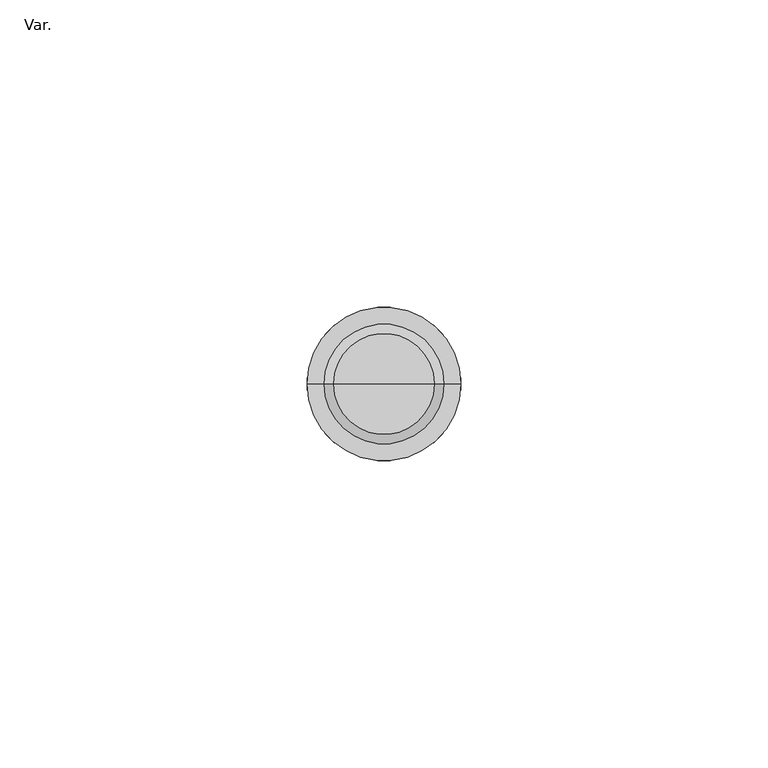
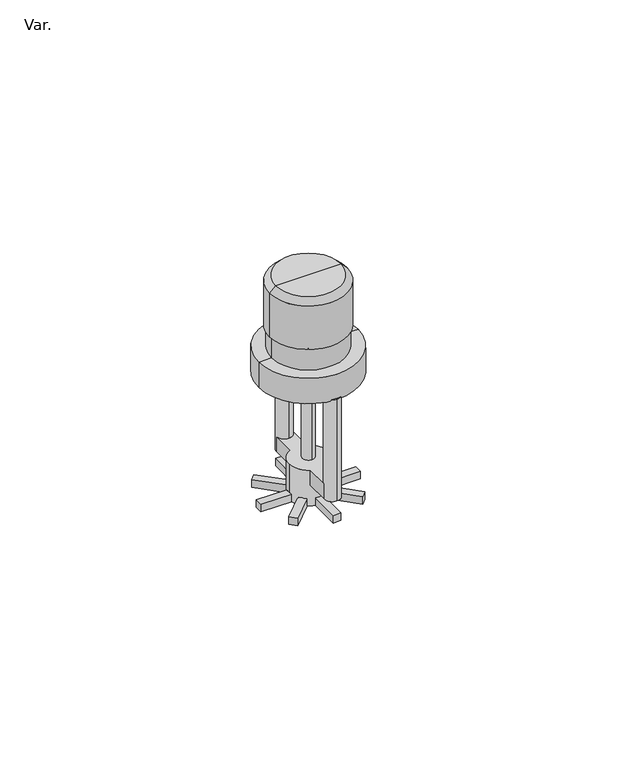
"""IFC4 building model written with IfcOpenShell, lengths in millimetres: pipe fitting geometry, Rociadores_ContraincendiosRociadorVertical : Var.."""

from ifc_helpers import new_model, si_unit, point, frame, origin, origin_with_axes, origin_2d, place, context, project, spatial, polyline, circle_curve, trimmed, segment, composite_curve, outline, extrude, source, transform, mapped, element, save
from ifc_brep_helpers import plane_surface, cylinder_surface, revolved_surface, advanced_brep


def var_fcf59cf1(model_context):
    return source(origin(), model_context, "Body", "SolidModel", [
        advanced_brep(
        [(0.0, -12.4454107, -52.5), (-2.0, -10.4454107, -52.5), (-2.0, -4.385476, -52.5), (2.0, -4.385476, -52.5), (2.0, -10.4454107, -52.5), (-2.0, 10.4454107, -52.5), (0.0, 12.4454107, -52.5), (2.0, 10.4454107, -52.5), (2.0, 4.385476, -52.5), (-2.0, 4.385476, -52.5), (0.0, -12.4454107, -25.5), (0.0, -8.4454107, -25.5), (0.0, 8.4454107, -25.5), (0.0, 12.4454107, -25.5), (0.0, -8.4454107, -48.5), (-2.0, -10.4454107, -48.5), (2.0, -10.4454107, -48.5), (-2.0, 10.4454107, -48.5), (0.0, 8.4454107, -48.5), (2.0, 10.4454107, -48.5), (2.0, -4.385476, -48.5), (4.82, 0.0, -48.5), (2.0, 4.385476, -48.5), (-2.0, 4.385476, -48.5), (-4.82, 0.0, -48.5), (-2.0, -4.385476, -48.5), (1.0, -12.5, -58.0), (-1.0, -12.5, -58.0), (-1.0, -4.7151246, -58.0), (-2.6269898, -4.0412034, -58.0), (-8.131728, -9.5459415, -58.0), (-9.5459415, -8.131728, -58.0), (-4.0412034, -2.6269898, -58.0), (-4.7151246, -1.0, -58.0), (-12.5, -1.0, -58.0), (-12.5, 1.0, -58.0), (-4.7151246, 1.0, -58.0), (-4.0412034, 2.6269898, -58.0), (-9.5459415, 8.131728, -58.0), (-8.131728, 9.5459415, -58.0), (-2.6269898, 4.0412034, -58.0), (-1.0, 4.7151246, -58.0), (-1.0, 12.5, -58.0), (1.0, 12.5, -58.0), (1.0, 4.7151246, -58.0), (2.6269898, 4.0412034, -58.0), (8.131728, 9.5459415, -58.0), (9.5459415, 8.131728, -58.0), (4.0412034, 2.6269898, -58.0), (4.7151246, 1.0, -58.0), (12.5, 1.0, -58.0), (12.5, -1.0, -58.0), (4.7151246, -1.0, -58.0), (4.0412034, -2.6269898, -58.0), (9.5459415, -8.131728, -58.0), (8.131728, -9.5459415, -58.0), (2.6269898, -4.0412034, -58.0), (1.0, -4.7151246, -58.0), (4.82, 0.0, -56.0), (4.7151246, 1.0, -56.0), (4.0412034, 2.6269898, -56.0), (2.6269898, 4.0412034, -56.0), (1.0, 4.7151246, -56.0), (-1.0, 4.7151246, -56.0), (-2.6269898, 4.0412034, -56.0), (-4.0412034, 2.6269898, -56.0), (-4.7151246, 1.0, -56.0), (-4.82, 0.0, -56.0), (-4.7151246, -1.0, -56.0), (-4.0412034, -2.6269898, -56.0), (-2.6269898, -4.0412034, -56.0), (-1.0, -4.7151246, -56.0), (1.0, -4.7151246, -56.0), (2.6269898, -4.0412034, -56.0), (4.0412034, -2.6269898, -56.0), (4.7151246, -1.0, -56.0), (-1.0, -12.5, -56.0), (1.0, -12.5, -56.0), (8.131728, -9.5459415, -56.0), (9.5459415, -8.131728, -56.0), (12.5, -1.0, -56.0), (12.5, 1.0, -56.0), (9.5459415, 8.131728, -56.0), (8.131728, 9.5459415, -56.0), (1.0, 12.5, -56.0), (-1.0, 12.5, -56.0), (-8.131728, 9.5459415, -56.0), (-9.5459415, 8.131728, -56.0), (-12.5, 1.0, -56.0), (-12.5, -1.0, -56.0), (-9.5459415, -8.131728, -56.0), (-8.131728, -9.5459415, -56.0)],
        [
            (0, 1, circle_curve(frame((0.0, -10.4454107, -52.5), z_axis=(0.0, 0.0, -1.0), x_axis=(0.0, 1.0, 0.0)), 2.0)),
            (1, 2),
            (2, 3, circle_curve(frame((0.0, 0.0, -52.5), z_axis=(0.0, 0.0, 1.0), x_axis=(1.0, 0.0, 0.0)), 4.82)),
            (3, 4),
            (4, 0, circle_curve(frame((0.0, -10.4454107, -52.5), z_axis=(0.0, 0.0, -1.0), x_axis=(0.0, 1.0, 0.0)), 2.0)),
            (5, 6, circle_curve(frame((0.0, 10.4454107, -52.5), z_axis=(0.0, 0.0, -1.0), x_axis=(0.0, 1.0, 0.0)), 2.0)),
            (6, 7, circle_curve(frame((0.0, 10.4454107, -52.5), z_axis=(0.0, 0.0, -1.0), x_axis=(0.0, 1.0, 0.0)), 2.0)),
            (7, 8),
            (8, 9, circle_curve(frame((0.0, 0.0, -52.5), z_axis=(0.0, 0.0, 1.0), x_axis=(1.0, 0.0, 0.0)), 4.82)),
            (9, 5),
            (10, 11, circle_curve(frame((0.0, -10.4454107, -25.5), z_axis=(0.0, 0.0, 1.0), x_axis=(0.0, 1.0, 0.0)), 2.0)),
            (11, 10, circle_curve(frame((0.0, -10.4454107, -25.5), z_axis=(0.0, 0.0, 1.0), x_axis=(0.0, 1.0, 0.0)), 2.0)),
            (12, 13, circle_curve(frame((0.0, 10.4454107, -25.5), z_axis=(0.0, 0.0, 1.0), x_axis=(0.0, 1.0, 0.0)), 2.0)),
            (13, 12, circle_curve(frame((0.0, 10.4454107, -25.5), z_axis=(0.0, 0.0, 1.0), x_axis=(0.0, 1.0, 0.0)), 2.0)),
            (11, 14),
            (14, 15, circle_curve(frame((0.0, -10.4454107, -48.5), z_axis=(0.0, 0.0, 1.0), x_axis=(0.0, 1.0, 0.0)), 2.0)),
            (15, 1),
            (0, 10),
            (4, 16),
            (16, 14, circle_curve(frame((0.0, -10.4454107, -48.5), z_axis=(0.0, 0.0, 1.0), x_axis=(0.0, 1.0, 0.0)), 2.0)),
            (13, 6),
            (5, 17),
            (17, 18, circle_curve(frame((0.0, 10.4454107, -48.5), z_axis=(0.0, 0.0, 1.0), x_axis=(0.0, 1.0, 0.0)), 2.0)),
            (18, 12),
            (18, 19, circle_curve(frame((0.0, 10.4454107, -48.5), z_axis=(0.0, 0.0, 1.0), x_axis=(0.0, 1.0, 0.0)), 2.0)),
            (19, 7),
            (16, 20),
            (20, 21, circle_curve(frame((0.0, 0.0, -48.5), z_axis=(0.0, 0.0, 1.0), x_axis=(1.0, 0.0, 0.0)), 4.82)),
            (21, 22, circle_curve(frame((0.0, 0.0, -48.5), z_axis=(0.0, 0.0, 1.0), x_axis=(1.0, 0.0, 0.0)), 4.82)),
            (22, 19),
            (17, 23),
            (23, 24, circle_curve(frame((0.0, 0.0, -48.5), z_axis=(0.0, 0.0, 1.0), x_axis=(1.0, 0.0, 0.0)), 4.82)),
            (24, 25, circle_curve(frame((0.0, 0.0, -48.5), z_axis=(0.0, 0.0, 1.0), x_axis=(1.0, 0.0, 0.0)), 4.82)),
            (25, 15),
            (25, 2),
            (9, 23),
            (3, 20),
            (22, 8),
            (26, 27),
            (27, 28),
            (28, 29, circle_curve(frame((0.0, 0.0, -58.0), z_axis=(0.0, 0.0, -1.0), x_axis=(1.0, 0.0, 0.0)), 4.82)),
            (29, 30),
            (30, 31),
            (31, 32),
            (32, 33, circle_curve(frame((0.0, 0.0, -58.0), z_axis=(0.0, 0.0, -1.0), x_axis=(1.0, 0.0, 0.0)), 4.82)),
            (33, 34),
            (34, 35),
            (35, 36),
            (36, 37, circle_curve(frame((0.0, 0.0, -58.0), z_axis=(0.0, 0.0, -1.0), x_axis=(1.0, 0.0, 0.0)), 4.82)),
            (37, 38),
            (38, 39),
            (39, 40),
            (40, 41, circle_curve(frame((0.0, 0.0, -58.0), z_axis=(0.0, 0.0, -1.0), x_axis=(1.0, 0.0, 0.0)), 4.82)),
            (41, 42),
            (42, 43),
            (43, 44),
            (44, 45, circle_curve(frame((0.0, 0.0, -58.0), z_axis=(0.0, 0.0, -1.0), x_axis=(1.0, 0.0, 0.0)), 4.82)),
            (45, 46),
            (46, 47),
            (47, 48),
            (48, 49, circle_curve(frame((0.0, 0.0, -58.0), z_axis=(0.0, 0.0, -1.0), x_axis=(1.0, 0.0, 0.0)), 4.82)),
            (49, 50),
            (50, 51),
            (51, 52),
            (52, 53, circle_curve(frame((0.0, 0.0, -58.0), z_axis=(0.0, 0.0, -1.0), x_axis=(1.0, 0.0, 0.0)), 4.82)),
            (53, 54),
            (54, 55),
            (55, 56),
            (56, 57, circle_curve(frame((0.0, 0.0, -58.0), z_axis=(0.0, 0.0, -1.0), x_axis=(1.0, 0.0, 0.0)), 4.82)),
            (57, 26),
            (21, 58),
            (58, 59, circle_curve(frame((0.0, 0.0, -56.0), z_axis=(0.0, 0.0, 1.0), x_axis=(1.0, 0.0, 0.0)), 4.82)),
            (59, 49),
            (48, 60),
            (60, 61, circle_curve(frame((0.0, 0.0, -56.0), z_axis=(0.0, 0.0, 1.0), x_axis=(1.0, 0.0, 0.0)), 4.82)),
            (61, 45),
            (44, 62),
            (62, 63, circle_curve(frame((0.0, 0.0, -56.0), z_axis=(0.0, 0.0, 1.0), x_axis=(1.0, 0.0, 0.0)), 4.82)),
            (63, 41),
            (40, 64),
            (64, 65, circle_curve(frame((0.0, 0.0, -56.0), z_axis=(0.0, 0.0, 1.0), x_axis=(1.0, 0.0, 0.0)), 4.82)),
            (65, 37),
            (36, 66),
            (66, 67, circle_curve(frame((0.0, 0.0, -56.0), z_axis=(0.0, 0.0, 1.0), x_axis=(1.0, 0.0, 0.0)), 4.82)),
            (67, 24),
            (67, 68, circle_curve(frame((0.0, 0.0, -56.0), z_axis=(0.0, 0.0, 1.0), x_axis=(1.0, 0.0, 0.0)), 4.82)),
            (68, 33),
            (32, 69),
            (69, 70, circle_curve(frame((0.0, 0.0, -56.0), z_axis=(0.0, 0.0, 1.0), x_axis=(1.0, 0.0, 0.0)), 4.82)),
            (70, 29),
            (28, 71),
            (71, 72, circle_curve(frame((0.0, 0.0, -56.0), z_axis=(0.0, 0.0, 1.0), x_axis=(1.0, 0.0, 0.0)), 4.82)),
            (72, 57),
            (56, 73),
            (73, 74, circle_curve(frame((0.0, 0.0, -56.0), z_axis=(0.0, 0.0, 1.0), x_axis=(1.0, 0.0, 0.0)), 4.82)),
            (74, 53),
            (52, 75),
            (75, 58, circle_curve(frame((0.0, 0.0, -56.0), z_axis=(0.0, 0.0, 1.0), x_axis=(1.0, 0.0, 0.0)), 4.82)),
            (76, 77),
            (77, 72),
            (71, 76),
            (26, 77),
            (76, 27),
            (78, 79),
            (79, 74),
            (73, 78),
            (54, 79),
            (78, 55),
            (80, 81),
            (81, 59),
            (75, 80),
            (50, 81),
            (80, 51),
            (82, 83),
            (83, 61),
            (60, 82),
            (46, 83),
            (82, 47),
            (84, 85),
            (85, 63),
            (62, 84),
            (42, 85),
            (84, 43),
            (86, 87),
            (87, 65),
            (64, 86),
            (38, 87),
            (86, 39),
            (88, 89),
            (89, 68),
            (66, 88),
            (34, 89),
            (88, 35),
            (90, 91),
            (91, 70),
            (69, 90),
            (30, 91),
            (90, 31),
        ],
        [
            plane_surface(frame((0.0, -8.4454107, -52.5), z_axis=(0.0, 0.0, -1.0), x_axis=(1.0, 0.0, 0.0))),
            plane_surface(frame((0.0, -8.4454107, -25.5), z_axis=(0.0, 0.0, 1.0), x_axis=(-1.0, 0.0, 0.0))),
            cylinder_surface(frame((0.0, -10.4454107, -25.5), z_axis=(0.0, 0.0, -1.0), x_axis=(0.0, 1.0, 0.0)), 2.0),
            cylinder_surface(frame((0.0, 10.4454107, -25.5), z_axis=(0.0, 0.0, -1.0), x_axis=(0.0, 1.0, 0.0)), 2.0),
            plane_surface(frame((-2.0, -10.4454107, -48.5), z_axis=(0.0, 0.0, 1.0), x_axis=(1.0, 0.0, 0.0))),
            plane_surface(frame((-2.0, -10.4454107, -52.5), z_axis=(-1.0, 0.0, 0.0), x_axis=(0.0, 0.0, 1.0))),
            plane_surface(frame((2.0, 10.4454107, -52.5), z_axis=(1.0, 0.0, 0.0), x_axis=(0.0, 0.0, 1.0))),
            plane_surface(frame((4.82, 0.0, -58.0), z_axis=(0.0, 0.0, -1.0), x_axis=(0.0, -1.0, 0.0))),
            cylinder_surface(frame((0.0, 0.0, -48.5), z_axis=(0.0, 0.0, -1.0), x_axis=(1.0, 0.0, 0.0)), 4.82),
            plane_surface(frame((-0.8556129, -12.5, -56.0), z_axis=(0.0, 0.0, 1.0), x_axis=(1.0, 0.0, 0.0))),
            plane_surface(frame((1.0, -12.5, -58.0), z_axis=(0.0, -1.0, 0.0), x_axis=(0.0, 0.0, 1.0))),
            plane_surface(frame((-1.0, -12.5, -58.0), z_axis=(-1.0, 0.0, 0.0), x_axis=(0.0, 0.0, 1.0))),
            plane_surface(frame((1.0, -3.9129669, -58.0), z_axis=(1.0, 0.0, 0.0), x_axis=(0.0, 0.0, 1.0))),
            plane_surface(frame((8.2338251, -9.4438444, -56.0), z_axis=(0.0, 0.0, 1.0), x_axis=(0.7071067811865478, 0.7071067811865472, 0.0))),
            plane_surface(frame((9.5459415, -8.131728, -58.0), z_axis=(0.7071067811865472, -0.7071067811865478, 0.0), x_axis=(0.0, 0.0, 1.0))),
            plane_surface(frame((8.131728, -9.5459415, -58.0), z_axis=(-0.7071067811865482, -0.7071067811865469, 0.0), x_axis=(0.0, 0.0, 1.0))),
            plane_surface(frame((3.4739922, -2.0597786, -58.0), z_axis=(0.707106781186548, 0.7071067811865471, 0.0), x_axis=(0.0, 0.0, 1.0))),
            plane_surface(frame((12.5, -0.8556129, -56.0), z_axis=(0.0, 0.0, 1.0), x_axis=(0.0, 1.0, 0.0))),
            plane_surface(frame((12.5, 1.0, -58.0), z_axis=(1.0, 0.0, 0.0), x_axis=(0.0, 0.0, 1.0))),
            plane_surface(frame((12.5, -1.0, -58.0), z_axis=(0.0, -1.0, 0.0), x_axis=(0.0, 0.0, 1.0))),
            plane_surface(frame((3.9129669, 1.0, -58.0), z_axis=(0.0, 1.0, 0.0), x_axis=(0.0, 0.0, 1.0))),
            plane_surface(frame((9.4438444, 8.2338251, -56.0), z_axis=(0.0, 0.0, 1.0), x_axis=(-0.707106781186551, 0.7071067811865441, 0.0))),
            plane_surface(frame((8.131728, 9.5459415, -58.0), z_axis=(0.7071067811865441, 0.707106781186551, 0.0), x_axis=(0.0, 0.0, 1.0))),
            plane_surface(frame((9.5459415, 8.131728, -58.0), z_axis=(0.7071067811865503, -0.7071067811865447, 0.0), x_axis=(0.0, 0.0, 1.0))),
            plane_surface(frame((2.0597786, 3.4739922, -58.0), z_axis=(-0.7071067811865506, 0.7071067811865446, 0.0), x_axis=(0.0, 0.0, 1.0))),
            plane_surface(frame((0.8556129, 12.5, -56.0), z_axis=(0.0, 0.0, 1.0), x_axis=(-1.0, 0.0, 0.0))),
            plane_surface(frame((-1.0, 12.5, -58.0), z_axis=(0.0, 1.0, 0.0), x_axis=(0.0, 0.0, 1.0))),
            plane_surface(frame((1.0, 12.5, -58.0), z_axis=(1.0, 0.0, 0.0), x_axis=(0.0, 0.0, 1.0))),
            plane_surface(frame((-1.0, 3.9129669, -58.0), z_axis=(-1.0, 0.0, 0.0), x_axis=(0.0, 0.0, 1.0))),
            plane_surface(frame((-8.2338251, 9.4438444, -56.0), z_axis=(0.0, 0.0, 1.0), x_axis=(-0.7071067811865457, -0.7071067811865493, 0.0))),
            plane_surface(frame((-9.5459415, 8.131728, -58.0), z_axis=(-0.7071067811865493, 0.7071067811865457, 0.0), x_axis=(0.0, 0.0, 1.0))),
            plane_surface(frame((-8.131728, 9.5459415, -58.0), z_axis=(0.7071067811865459, 0.7071067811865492, 0.0), x_axis=(0.0, 0.0, 1.0))),
            plane_surface(frame((-3.4739922, 2.0597786, -58.0), z_axis=(-0.7071067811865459, -0.7071067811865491, 0.0), x_axis=(0.0, 0.0, 1.0))),
            plane_surface(frame((-12.5, 0.8556129, -56.0), z_axis=(0.0, 0.0, 1.0), x_axis=(0.0, -1.0, 0.0))),
            plane_surface(frame((-12.5, -1.0, -58.0), z_axis=(-1.0, 0.0, 0.0), x_axis=(0.0, 0.0, 1.0))),
            plane_surface(frame((-12.5, 1.0, -58.0), z_axis=(0.0, 1.0, 0.0), x_axis=(0.0, 0.0, 1.0))),
            plane_surface(frame((-3.9129669, -1.0, -58.0), z_axis=(0.0, -1.0, 0.0), x_axis=(0.0, 0.0, 1.0))),
            plane_surface(frame((-9.4438444, -8.2338251, -56.0), z_axis=(0.0, 0.0, 1.0), x_axis=(0.7071067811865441, -0.707106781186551, 0.0))),
            plane_surface(frame((-8.131728, -9.5459415, -58.0), z_axis=(-0.707106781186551, -0.7071067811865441, 0.0), x_axis=(0.0, 0.0, 1.0))),
            plane_surface(frame((-9.5459415, -8.131728, -58.0), z_axis=(-0.7071067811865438, 0.7071067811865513, 0.0), x_axis=(0.0, 0.0, 1.0))),
            plane_surface(frame((-2.0597786, -3.4739922, -58.0), z_axis=(0.7071067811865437, -0.7071067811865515, 0.0), x_axis=(0.0, 0.0, 1.0))),
        ],
        [
            (0, [[1, 2, 3, 4, 5]]),
            (0, [[6, 7, 8, 9, 10]]),
            (1, [[11, 12]]),
            (1, [[13, 14]]),
            (2, [[-12, 15, 16, 17, -1, 18]]),
            (2, [[-11, -18, -5, 19, 20, -15]]),
            (3, [[-14, 21, -6, 22, 23, 24]]),
            (3, [[-13, -24, 25, 26, -7, -21]]),
            (4, [[-16, -20, 27, 28, 29, 30, -25, -23, 31, 32, 33, 34]]),
            (5, [[-17, -34, 35, -2]]),
            (5, [[-22, -10, 36, -31]]),
            (6, [[-19, -4, 37, -27]]),
            (6, [[-26, -30, 38, -8]]),
            (7, [[39, 40, 41, 42, 43, 44, 45, 46, 47, 48, 49, 50, 51, 52, 53, 54, 55, 56, 57, 58, 59, 60, 61, 62, 63, 64, 65, 66, 67, 68, 69, 70]]),
            (8, [[-29, 71, 72, 73, -61, 74, 75, 76, -57, 77, 78, 79, -53, 80, 81, 82, -49, 83, 84, 85, -32, -36, -9, -38]]),
            (8, [[-28, -37, -3, -35, -33, -85, 86, 87, -45, 88, 89, 90, -41, 91, 92, 93, -69, 94, 95, 96, -65, 97, 98, -71]]),
            (9, [[99, 100, -92, 101]]),
            (10, [[-39, 102, -99, 103]]),
            (11, [[-103, -101, -91, -40]]),
            (12, [[-102, -70, -93, -100]]),
            (13, [[104, 105, -95, 106]]),
            (14, [[-67, 107, -104, 108]]),
            (15, [[-108, -106, -94, -68]]),
            (16, [[-107, -66, -96, -105]]),
            (17, [[109, 110, -72, -98, 111]]),
            (18, [[-63, 112, -109, 113]]),
            (19, [[-113, -111, -97, -64]]),
            (20, [[-112, -62, -73, -110]]),
            (21, [[114, 115, -75, 116]]),
            (22, [[-59, 117, -114, 118]]),
            (23, [[-118, -116, -74, -60]]),
            (24, [[-117, -58, -76, -115]]),
            (25, [[119, 120, -78, 121]]),
            (26, [[-55, 122, -119, 123]]),
            (27, [[-123, -121, -77, -56]]),
            (28, [[-122, -54, -79, -120]]),
            (29, [[124, 125, -81, 126]]),
            (30, [[-51, 127, -124, 128]]),
            (31, [[-128, -126, -80, -52]]),
            (32, [[-127, -50, -82, -125]]),
            (33, [[129, 130, -86, -84, 131]]),
            (34, [[-47, 132, -129, 133]]),
            (35, [[-133, -131, -83, -48]]),
            (36, [[-132, -46, -87, -130]]),
            (37, [[134, 135, -89, 136]]),
            (38, [[-43, 137, -134, 138]]),
            (39, [[-138, -136, -88, -44]]),
            (40, [[-137, -42, -90, -135]]),
        ],
    ),
        extrude(outline(composite_curve([segment(trimmed(circle_curve(origin_2d(), 1.5), [point((0.0, -1.5))], [point((0.0, 1.5))], False, "CARTESIAN"), True, "CONTINUOUS"), segment(trimmed(circle_curve(origin_2d(), 1.5), [point((0.0, 1.5))], [point((0.0, -1.5))], False, "CARTESIAN"), True, "CONTINUOUS")], self_intersect=False)), frame((0.0, 0.0, -48.5), z_axis=(0.0, 0.0, 1.0), x_axis=(1.0, 0.0, 0.0)), (0.0, 0.0, 1.0), 23.0),
        advanced_brep(
        [(-12.5, 0.0, -25.5), (12.5, 0.0, -25.5), (0.0, 0.0, -25.5), (-12.5, 0.0, -18.8), (12.5, 0.0, -18.8), (-9.3, 0.0, -18.8), (9.3, 0.0, -18.8), (-9.3, 0.0, -13.0), (9.3, 0.0, -13.0), (0.0, 0.0, -13.0)],
        [
            (0, 1, circle_curve(frame((0.0, 0.0, -25.5), z_axis=(0.0, 0.0, -1.0), x_axis=(1.0, 0.0, 0.0)), 12.5)),
            (1, 2),
            (2, 0),
            (1, 0, circle_curve(frame((0.0, 0.0, -25.5), z_axis=(0.0, 0.0, -1.0), x_axis=(1.0, 0.0, 0.0)), 12.5)),
            (3, 4, circle_curve(frame((0.0, 0.0, -18.8), z_axis=(0.0, 0.0, -1.0), x_axis=(1.0, 0.0, 0.0)), 12.5)),
            (4, 1),
            (0, 3),
            (4, 3, circle_curve(frame((0.0, 0.0, -18.8), z_axis=(0.0, 0.0, -1.0), x_axis=(1.0, 0.0, 0.0)), 12.5)),
            (5, 6, circle_curve(frame((0.0, 0.0, -18.8), z_axis=(0.0, 0.0, -1.0), x_axis=(1.0, 0.0, 0.0)), 9.3)),
            (6, 4),
            (3, 5),
            (6, 5, circle_curve(frame((0.0, 0.0, -18.8), z_axis=(0.0, 0.0, -1.0), x_axis=(1.0, 0.0, 0.0)), 9.3)),
            (7, 8, circle_curve(frame((0.0, 0.0, -13.0), z_axis=(0.0, 0.0, -1.0), x_axis=(1.0, 0.0, 0.0)), 9.3)),
            (8, 6),
            (5, 7),
            (8, 7, circle_curve(frame((0.0, 0.0, -13.0), z_axis=(0.0, 0.0, -1.0), x_axis=(1.0, 0.0, 0.0)), 9.3)),
            (9, 8),
            (7, 9),
        ],
        [
            plane_surface(frame((0.0, 0.0, -25.5), z_axis=(0.0, 0.0, -1.0), x_axis=(1.0, 0.0, 0.0))),
            cylinder_surface(frame((0.0, 0.0, -2000.0), z_axis=(0.0, 0.0, 1.0), x_axis=(1.0, 0.0, 0.0)), 12.5),
            plane_surface(frame((0.0, 0.0, -18.8), z_axis=(0.0, 0.0, 1.0), x_axis=(1.0, 0.0, 0.0))),
            cylinder_surface(frame((0.0, 0.0, -2000.0), z_axis=(0.0, 0.0, 1.0), x_axis=(1.0, 0.0, 0.0)), 9.3),
            plane_surface(frame((0.0, 0.0, -13.0), z_axis=(0.0, 0.0, 1.0), x_axis=(1.0, 0.0, 0.0))),
        ],
        [
            (0, [[1, 2, 3]]),
            (0, [[4, -3, -2]]),
            (1, [[5, 6, -1, 7]]),
            (1, [[8, -7, -4, -6]]),
            (2, [[9, 10, -5, 11]]),
            (2, [[12, -11, -8, -10]]),
            (3, [[13, 14, -9, 15]]),
            (3, [[16, -15, -12, -14]]),
            (4, [[17, -13, 18]]),
            (4, [[-18, -16, -17]]),
        ],
    ),
        advanced_brep(
        [(-9.75, 0.0, -13.0), (9.75, 0.0, -13.0), (0.0, 0.0, -13.0), (-9.75, 0.0, -1.5), (9.75, 0.0, -1.5), (-8.25, 0.0, 0.0), (8.25, 0.0, 0.0), (0.0, 0.0, 0.0)],
        [
            (0, 1, circle_curve(frame((0.0, 0.0, -13.0), z_axis=(0.0, 0.0, -1.0), x_axis=(1.0, 0.0, 0.0)), 9.75)),
            (1, 2),
            (2, 0),
            (1, 0, circle_curve(frame((0.0, 0.0, -13.0), z_axis=(0.0, 0.0, -1.0), x_axis=(1.0, 0.0, 0.0)), 9.75)),
            (3, 4, circle_curve(frame((0.0, 0.0, -1.5), z_axis=(0.0, 0.0, -1.0), x_axis=(1.0, 0.0, 0.0)), 9.75)),
            (4, 1),
            (0, 3),
            (4, 3, circle_curve(frame((0.0, 0.0, -1.5), z_axis=(0.0, 0.0, -1.0), x_axis=(1.0, 0.0, 0.0)), 9.75)),
            (5, 6, circle_curve(frame((0.0, 0.0, 0.0), z_axis=(0.0, 0.0, -1.0), x_axis=(1.0, 0.0, 0.0)), 8.25)),
            (6, 4),
            (3, 5),
            (6, 5, circle_curve(frame((0.0, 0.0, 0.0), z_axis=(0.0, 0.0, -1.0), x_axis=(1.0, 0.0, 0.0)), 8.25)),
            (7, 6),
            (5, 7),
        ],
        [
            plane_surface(frame((0.0, 0.0, -13.0), z_axis=(0.0, 0.0, -1.0), x_axis=(1.0, 0.0, 0.0))),
            cylinder_surface(frame((0.0, 0.0, -2000.0), z_axis=(0.0, 0.0, 1.0), x_axis=(1.0, 0.0, 0.0)), 9.75),
            revolved_surface(polyline([(9.75, 0.0, -1.5), (8.25, 0.0, 0.0)]), (0.0, 0.0, -2000.0), (0.0, 0.0, 1.0)),
            plane_surface(origin_with_axes()),
        ],
        [
            (0, [[1, 2, 3]]),
            (0, [[4, -3, -2]]),
            (1, [[5, 6, -1, 7]]),
            (1, [[8, -7, -4, -6]]),
            (2, [[9, 10, -5, 11]]),
            (2, [[12, -11, -8, -10]]),
            (3, [[13, -9, 14]]),
            (3, [[-14, -12, -13]]),
        ],
    ),
    ])


if __name__ == "__main__":
    model = new_model("IFC4")
    model_context = context("Model", 3, world=origin())
    ifc_project = project(units=[si_unit("LENGTHUNIT", "METRE", prefix="MILLI")], contexts=[model_context])
    site = spatial("IfcSite", under=ifc_project)
    building = spatial("IfcBuilding", under=site)
    placement = place(None, origin())
    var_shape = var_fcf59cf1(model_context)
    element("IfcPipeFitting", 1, ObjectType="Rociadores_ContraincendiosRociadorVertical : Var.", at=placement, inside=building, context=model_context, shape_type="MappedRepresentation", body=[
        mapped(var_shape, transform((0.0, 0.0, 0.0), x_axis=(1.0, 0.0, 0.0), y_axis=(0.0, 1.0, 0.0), z_axis=(0.0, 0.0, 1.0))),
    ])
    save(model, "model.ifc")
